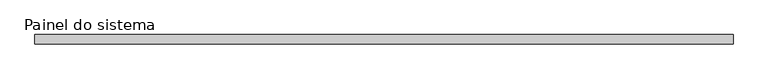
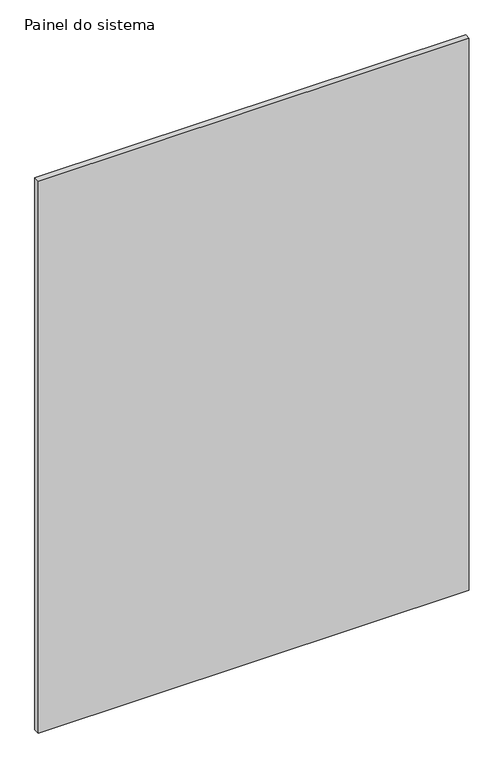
"""IFC4 building model written with IfcOpenShell, lengths in millimetres: plate geometry, Painel do sistema : Envidraçado."""

from ifc_helpers import new_model, si_unit, origin, origin_with_axes, place, context, project, spatial, polyline, outline, extrude, source, transform, mapped, element, save


def painel_do_sistema_2631fa7f(model_context):
    return source(origin(), model_context, "Body", "SweptSolid", [
        extrude(outline(polyline([(735.0000002, -10.0), (-735.0000002, -10.0), (-735.0000002, 10.0), (735.0000002, 10.0), (735.0000002, -10.0)])), origin_with_axes(), (0.0, 0.0, 1.0), 1990.0),
    ])


if __name__ == "__main__":
    model = new_model("IFC4")
    model_context = context("Model", 3, world=origin())
    ifc_project = project(units=[si_unit("LENGTHUNIT", "METRE", prefix="MILLI")], contexts=[model_context])
    site = spatial("IfcSite", under=ifc_project)
    building = spatial("IfcBuilding", under=site)
    placement = place(None, origin())
    painel_do_sistema_shape = painel_do_sistema_2631fa7f(model_context)
    element("IfcPlate", 1, ObjectType="Painel do sistema : Envidraçado", at=placement, inside=building, context=model_context, shape_type="MappedRepresentation", body=[
        mapped(painel_do_sistema_shape, transform((0.0, 0.0, 0.0), x_axis=(1.0, 0.0, 0.0), y_axis=(0.0, 1.0, 0.0), z_axis=(0.0, 0.0, 1.0))),
    ])
    save(model, "model.ifc")
